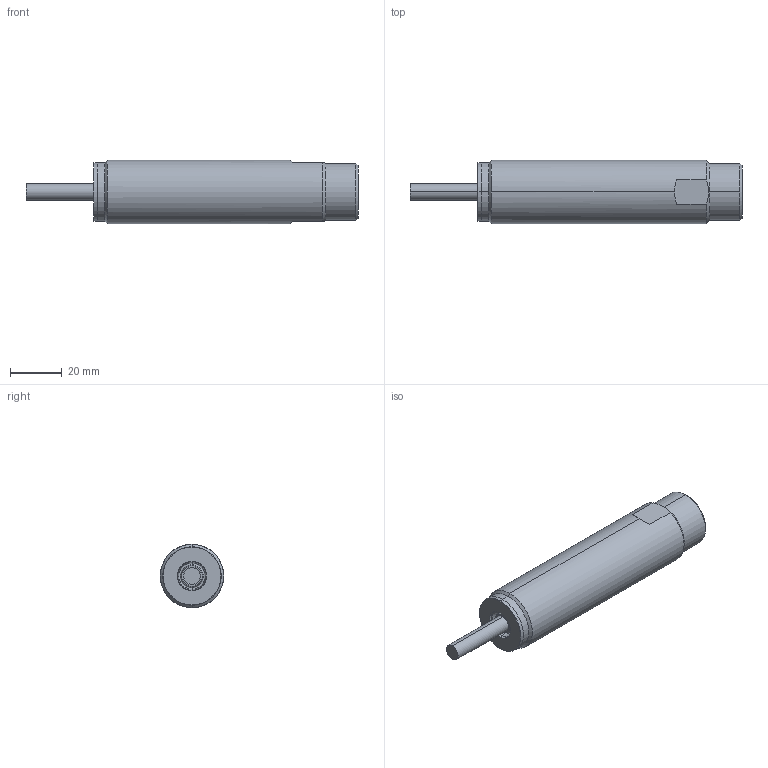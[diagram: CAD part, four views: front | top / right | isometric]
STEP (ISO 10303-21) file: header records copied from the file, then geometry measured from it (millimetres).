
FILE_DESCRIPTION (( 'STEP AP214' ), '1' );
FILE_NAME ('EN 27x25.STEP', '2019-12-05T05:47:54', ( 'user' ), ( 'Microsoft' ), 'SwSTEP 2.0', 'SolidWorks 2016', '' );
FILE_SCHEMA (( 'AUTOMOTIVE_DESIGN' ));
Length unit declared in the file: millimetre
Products named in the file (1): EN 27x25
Bounding box: 128.8 x 24.64 x 24.64 mm (x, y, z)
Surface area: 10322.8 mm2 (no closed solid volume)
Topology: 0 solids, 7 shells, 53 faces, 134 edges, 88 vertices
Faces by surface type: cone 18, plane 17, cylinder 16, bspline 2
Entity records: 2009 total; most frequent: CARTESIAN_POINT 718, DIRECTION 280, ORIENTED_EDGE 238, EDGE_CURVE 134, AXIS2_PLACEMENT_3D 114, VERTEX_POINT 88, CIRCLE 62, EDGE_LOOP 59
